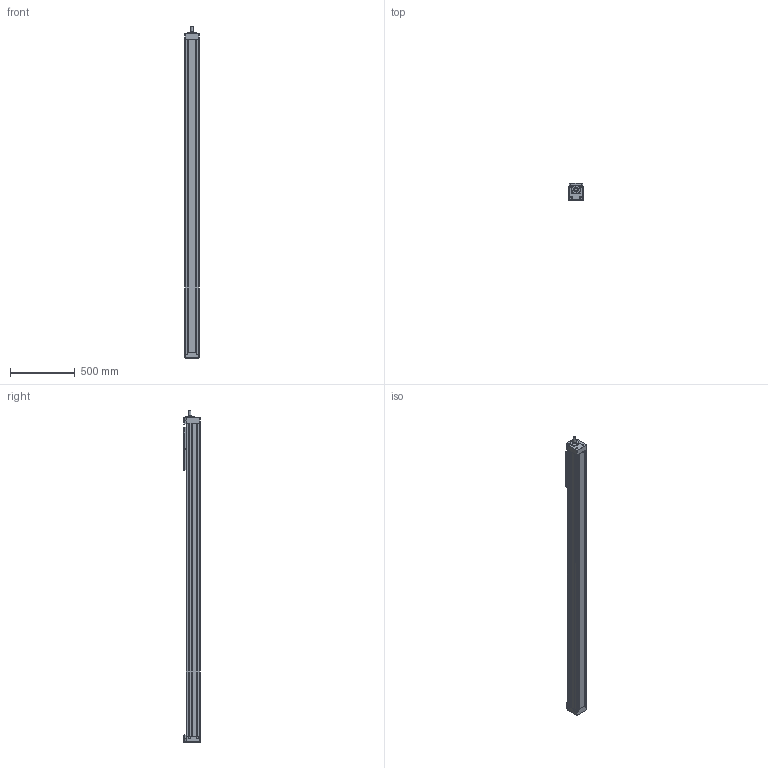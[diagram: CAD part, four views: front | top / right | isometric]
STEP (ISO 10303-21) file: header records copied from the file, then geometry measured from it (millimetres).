
FILE_DESCRIPTION(/* description */ ('STEP AP214'),/* implementation_level */ '2;1');
FILE_NAME(/* name */ 'MTV 110 3210 ISO7 0 2020(0)',/* time_stamp */ '2025-12-08T12:05:10+01:00',/* author */ ('License CC BY-ND 4.0'),/* organization */ ('CADENAS'),/* preprocessor_version */ 'ST-DEVELOPER v20',/* originating_system */ 'PARTsolutions',/* authorisation */ ' ');
FILE_SCHEMA (('AUTOMOTIVE_DESIGN {1 0 10303 214 3 1 1}'));
Length unit declared in the file: millimetre
Products named in the file (6): MTV 110 3210 ISO7 0 2020(0); MTV 110 0_drive_block; MTV 110 2020(0)_profil; MTV 110_end_block; MTV 110_carriage; MTV 110 2020(0)_protective_strip
Assembly tree (5 placements, depth 2):
  MTV 110 3210 ISO7 0 2020(0)
    MTV 110 0_drive_block
    MTV 110 2020(0)_profil
    MTV 110_end_block
    MTV 110_carriage
    MTV 110 2020(0)_protective_strip
Bounding box: 110 x 129 x 2562 mm (x, y, z)
Volume: 26881911.4 mm3; surface area: 2509350 mm2
Topology: 5 solids, 5 shells, 747 faces, 1853 edges, 1208 vertices
Faces by surface type: plane 418, cylinder 255, cone 42, torus 26, sphere 6
Full cylindrical faces by diameter (mm): 3 x4, 4 x8, 4.134 x12, 5 x4, 6.647 x4, 8 x2, 8.376 x8, 9 x12, 12 x4, 13 x16, 15 x22, 18 x1, 20 x1, 34.641 x1, 68 x1
Entity records: 26366 total; most frequent: DIRECTION 3713, CARTESIAN_POINT 3606, ORIENTED_EDGE 3302, EDGE_CURVE 1651, AXIS2_PLACEMENT_3D 1313, VERTEX_POINT 1186, LINE 1087, VECTOR 1087
